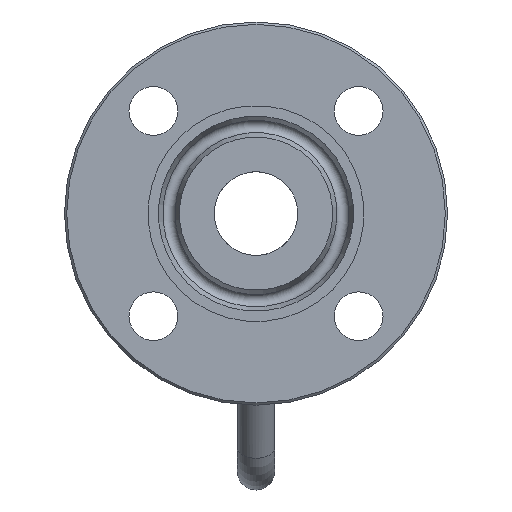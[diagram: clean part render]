
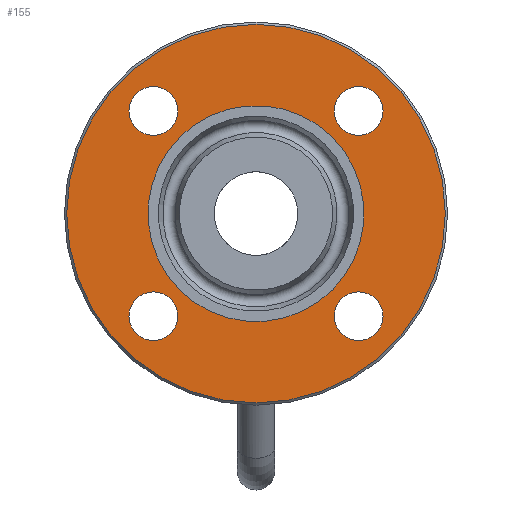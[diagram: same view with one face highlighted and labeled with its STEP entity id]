
A CAD part, left-side view. The second image highlights one B-rep face of the part: STEP entity #155.
In plain terms, the highlighted planar face has unit normal (-1, 0, 0).
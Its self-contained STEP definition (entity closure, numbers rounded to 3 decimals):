
#155=ADVANCED_FACE('',(#1333,#1335,#1337,#1339,#1341,#1343),#1345,.T.);
#1333=FACE_BOUND('',#1334,.T.);
#1334=EDGE_LOOP('',(#2289));
#1335=FACE_BOUND('',#1336,.T.);
#1336=EDGE_LOOP('',(#2290));
#1337=FACE_BOUND('',#1338,.T.);
#1338=EDGE_LOOP('',(#2291));
#1339=FACE_BOUND('',#1340,.T.);
#1340=EDGE_LOOP('',(#2292));
#1341=FACE_BOUND('',#1342,.T.);
#1342=EDGE_LOOP('',(#2293));
#1343=FACE_OUTER_BOUND('',#1344,.T.);
#1344=EDGE_LOOP('',(#2294));
#1345=PLANE('',#1346);
#1346=AXIS2_PLACEMENT_3D('',#1347,#1348,#1349);
#1347=CARTESIAN_POINT('',(-78.,0.,0.));
#1348=DIRECTION('',(-1.,0.,0.));
#1349=DIRECTION('',(0.,-1.,0.));
#2289=ORIENTED_EDGE('',*,*,#3353,.T.);
#2290=ORIENTED_EDGE('',*,*,#3350,.T.);
#2291=ORIENTED_EDGE('',*,*,#3348,.T.);
#2292=ORIENTED_EDGE('',*,*,#3346,.T.);
#2293=ORIENTED_EDGE('',*,*,#3363,.T.);
#2294=ORIENTED_EDGE('',*,*,#3364,.T.);
#3346=EDGE_CURVE('',#3696,#3696,#3697,.T.);
#3348=EDGE_CURVE('',#3699,#3699,#3700,.T.);
#3350=EDGE_CURVE('',#3702,#3702,#3703,.T.);
#3353=EDGE_CURVE('',#3705,#3705,#3707,.T.);
#3363=EDGE_CURVE('',#3724,#3724,#3725,.T.);
#3364=EDGE_CURVE('',#3726,#3726,#3727,.T.);
#3696=VERTEX_POINT('',#4798);
#3697=CIRCLE('',#4799,10.5);
#3699=VERTEX_POINT('',#4806);
#3700=CIRCLE('',#4807,10.5);
#3702=VERTEX_POINT('',#4814);
#3703=CIRCLE('',#4815,10.5);
#3705=VERTEX_POINT('',#4822);
#3707=CIRCLE('',#4826,10.5);
#3724=VERTEX_POINT('',#4869);
#3725=CIRCLE('',#4870,46.5);
#3726=VERTEX_POINT('',#4874);
#3727=CIRCLE('',#4875,81.5);
#4798=CARTESIAN_POINT('',(-78.,-54.694,-44.194));
#4799=AXIS2_PLACEMENT_3D('',#4800,#4801,#4802);
#4800=CARTESIAN_POINT('',(-78.,-44.194,-44.194));
#4801=DIRECTION('',(1.,0.,0.));
#4802=DIRECTION('',(0.,-1.,0.));
#4806=CARTESIAN_POINT('',(-78.,-44.194,54.694));
#4807=AXIS2_PLACEMENT_3D('',#4808,#4809,#4810);
#4808=CARTESIAN_POINT('',(-78.,-44.194,44.194));
#4809=DIRECTION('',(1.,0.,0.));
#4810=DIRECTION('',(0.,0.,1.));
#4814=CARTESIAN_POINT('',(-78.,54.694,44.194));
#4815=AXIS2_PLACEMENT_3D('',#4816,#4817,#4818);
#4816=CARTESIAN_POINT('',(-78.,44.194,44.194));
#4817=DIRECTION('',(1.,0.,0.));
#4818=DIRECTION('',(0.,1.,0.));
#4822=CARTESIAN_POINT('',(-78.,44.194,-54.694));
#4826=AXIS2_PLACEMENT_3D('',#4827,#4828,#4829);
#4827=CARTESIAN_POINT('',(-78.,44.194,-44.194));
#4828=DIRECTION('',(1.,0.,0.));
#4829=DIRECTION('',(0.,0.,-1.));
#4869=CARTESIAN_POINT('',(-78.,38.144,-26.595));
#4870=AXIS2_PLACEMENT_3D('',#4871,#4872,#4873);
#4871=CARTESIAN_POINT('',(-78.,0.,0.));
#4872=DIRECTION('',(1.,0.,0.));
#4873=DIRECTION('',(0.,0.82,-0.572));
#4874=CARTESIAN_POINT('',(-78.,-81.5,0.));
#4875=AXIS2_PLACEMENT_3D('',#4876,#4877,#4878);
#4876=CARTESIAN_POINT('',(-78.,0.,0.));
#4877=DIRECTION('',(-1.,0.,0.));
#4878=DIRECTION('',(0.,-1.,0.));
